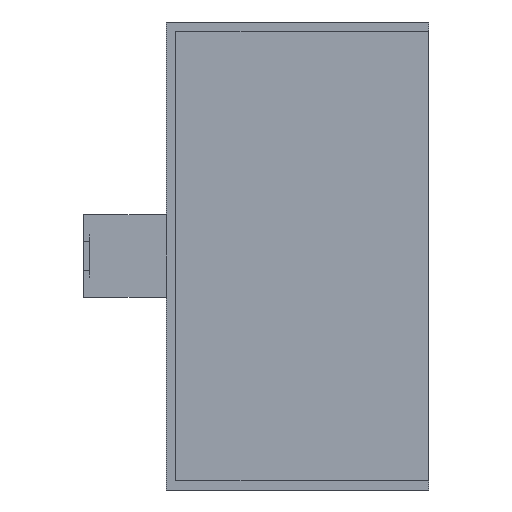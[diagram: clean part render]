
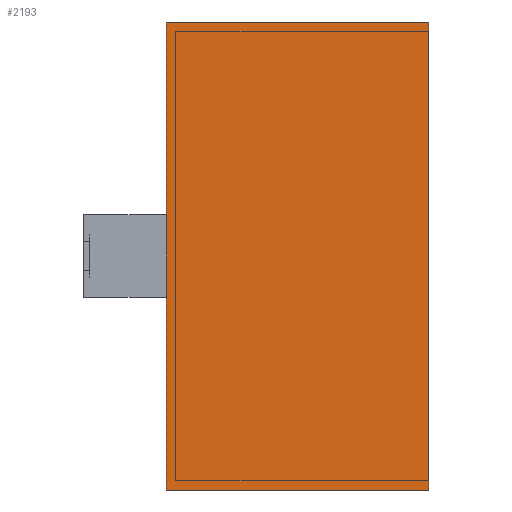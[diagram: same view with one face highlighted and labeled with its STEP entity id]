
A CAD part, left-side view. The second image highlights one B-rep face of the part: STEP entity #2193.
In plain terms, the highlighted planar face has unit normal (-1, 0, 0).
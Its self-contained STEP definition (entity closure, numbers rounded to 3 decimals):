
#292 = LINE ( 'NONE', #17772, #1951 ) ;
#1951 = VECTOR ( 'NONE', #7226, 1000. ) ;
#2030 = VERTEX_POINT ( 'NONE', #12557 ) ;
#2193 = ADVANCED_FACE ( 'NONE', ( #20376 ), #10192, .F. ) ;
#3057 = LINE ( 'NONE', #18152, #18546 ) ;
#3593 = EDGE_LOOP ( 'NONE', ( #18201, #19105, #19403, #19881 ) ) ;
#4204 = CARTESIAN_POINT ( 'NONE',  ( -65., 42., 37.5 ) ) ;
#6541 = VECTOR ( 'NONE', #20384, 1000. ) ;
#7226 = DIRECTION ( 'NONE',  ( 0., -1., 0. ) ) ;
#8509 = AXIS2_PLACEMENT_3D ( 'NONE', #10767, #10117, #10009 ) ;
#9445 = DIRECTION ( 'NONE',  ( 0., 0., 1. ) ) ;
#9507 = LINE ( 'NONE', #15032, #6541 ) ;
#10009 = DIRECTION ( 'NONE',  ( 0., 0., -1. ) ) ;
#10117 = DIRECTION ( 'NONE',  ( 1., 0., 0. ) ) ;
#10192 = PLANE ( 'NONE',  #8509 ) ;
#10767 = CARTESIAN_POINT ( 'NONE',  ( -65., 42., -37.5 ) ) ;
#12557 = CARTESIAN_POINT ( 'NONE',  ( -65., 42., -37.5 ) ) ;
#12914 = EDGE_CURVE ( 'NONE', #22667, #22878, #9507, .T. ) ;
#13404 = EDGE_CURVE ( 'NONE', #17673, #22878, #292, .T. ) ;
#13531 = EDGE_CURVE ( 'NONE', #2030, #17673, #3057, .T. ) ;
#13819 = EDGE_CURVE ( 'NONE', #2030, #22667, #19430, .T. ) ;
#14177 = CARTESIAN_POINT ( 'NONE',  ( -65., 0., 37.5 ) ) ;
#15032 = CARTESIAN_POINT ( 'NONE',  ( -65., 0., -37.5 ) ) ;
#17673 = VERTEX_POINT ( 'NONE', #4204 ) ;
#17746 = CARTESIAN_POINT ( 'NONE',  ( -65., 0., -37.5 ) ) ;
#17772 = CARTESIAN_POINT ( 'NONE',  ( -65., 42., 37.5 ) ) ;
#18152 = CARTESIAN_POINT ( 'NONE',  ( -65., 42., -37.5 ) ) ;
#18201 = ORIENTED_EDGE ( 'NONE', *, *, #12914, .T. ) ;
#18546 = VECTOR ( 'NONE', #9445, 1000. ) ;
#18609 = CARTESIAN_POINT ( 'NONE',  ( -65., 42., -37.5 ) ) ;
#19105 = ORIENTED_EDGE ( 'NONE', *, *, #13404, .F. ) ;
#19403 = ORIENTED_EDGE ( 'NONE', *, *, #13531, .F. ) ;
#19430 = LINE ( 'NONE', #18609, #21349 ) ;
#19881 = ORIENTED_EDGE ( 'NONE', *, *, #13819, .T. ) ;
#20352 = DIRECTION ( 'NONE',  ( 0., -1., 0. ) ) ;
#20376 = FACE_OUTER_BOUND ( 'NONE', #3593, .T. ) ;
#20384 = DIRECTION ( 'NONE',  ( 0., 0., 1. ) ) ;
#21349 = VECTOR ( 'NONE', #20352, 1000. ) ;
#22667 = VERTEX_POINT ( 'NONE', #17746 ) ;
#22878 = VERTEX_POINT ( 'NONE', #14177 ) ;
